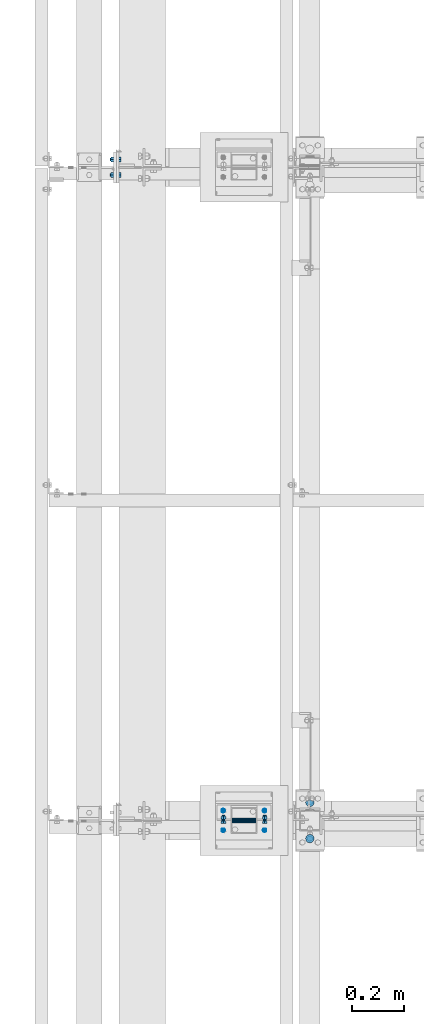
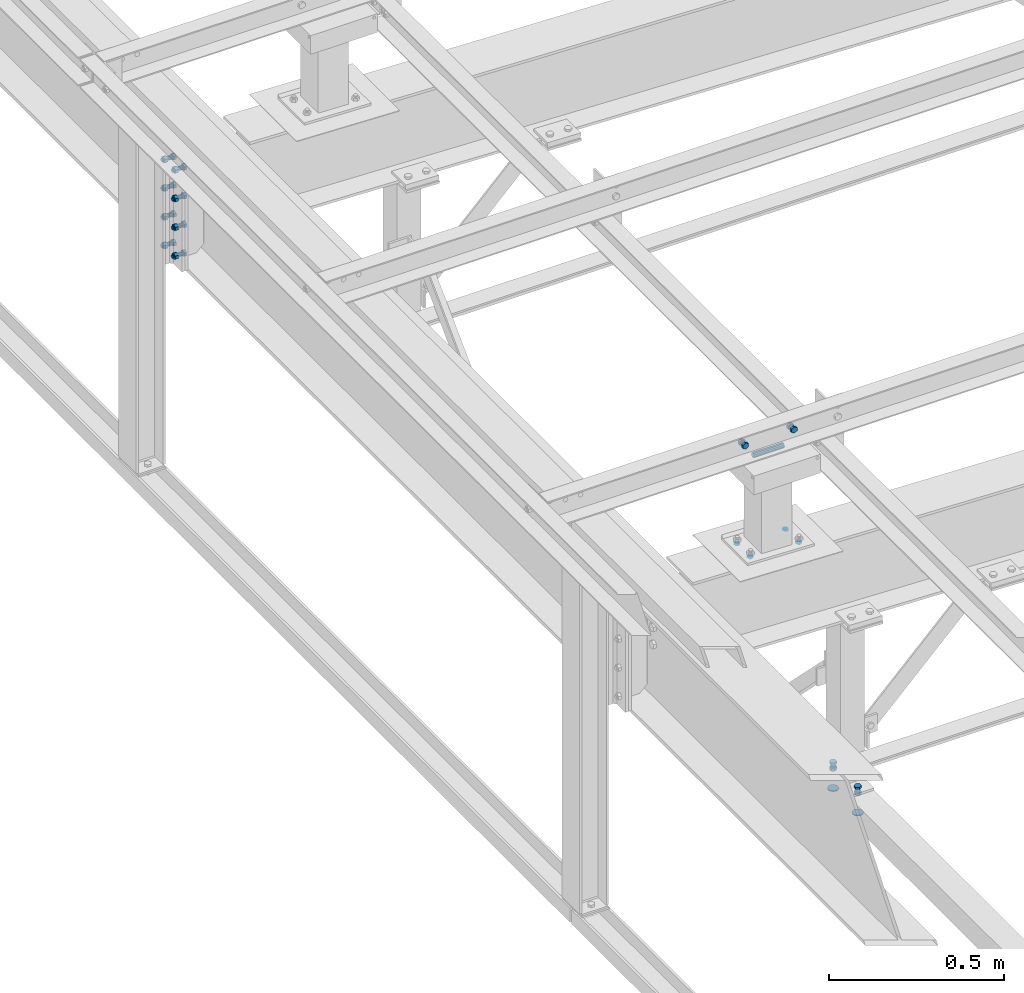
# One storey, part 60 of 3134: 6 mechanical fasteners, 4 elements without a shape of their own.
"""IFC2X3 building model written with IfcOpenShell, lengths in millimetres."""

from ifc_helpers import new_model, si_unit, frame, origin_with_axes, place, context, subcontext, project, spatial, faceted_brep, source, transform, mapped, material, type_object, element, aggregate, save


model = new_model("IFC2X3")

# Units and contexts
model_context = context("Model", 3, precision=1e-05, world=origin_with_axes())
body_context = subcontext(model_context, "Body", "Model", "MODEL_VIEW")
ifc_project = project(units=[si_unit("LENGTHUNIT", "METRE", prefix="MILLI"), si_unit("AREAUNIT", "SQUARE_METRE"), si_unit("VOLUMEUNIT", "CUBIC_METRE"), si_unit("MASSUNIT", "GRAM", prefix="KILO"), si_unit("TIMEUNIT", "SECOND"), si_unit("PLANEANGLEUNIT", "RADIAN"), si_unit("SOLIDANGLEUNIT", "STERADIAN"), si_unit("THERMODYNAMICTEMPERATUREUNIT", "DEGREE_CELSIUS"), si_unit("LUMINOUSINTENSITYUNIT", "LUMEN")], contexts=[model_context])

# Site, building, storey
site_placement = place(None, origin_with_axes())
site = spatial("IfcSite", under=ifc_project, at=site_placement, CompositionType="ELEMENT")
building_placement = place(site_placement, origin_with_axes())
building = spatial("IfcBuilding", under=site, at=building_placement, Name="Undefined", CompositionType="ELEMENT")
storey_placement = place(building_placement, origin_with_axes())
storey = spatial("IfcBuildingStorey", under=building, at=storey_placement, Name="Undefined", CompositionType="ELEMENT", Elevation=0.0)

# Assembly, mechanical fasteners
assembly_1_placement = place(storey_placement, origin_with_axes())
assembly_1 = element("IfcElementAssembly", 1, at=assembly_1_placement, inside=storey, AssemblyPlace="NOTDEFINED", PredefinedType="RIGID_FRAME")
ifc_material = material(Name="8.8")
mechanical_fastener_type = type_object("IfcMechanicalFastenerType", Name="Bolt assembly")
shared_shape_1 = source(origin_with_axes(), body_context, "Body", "Brep", [
    faceted_brep([(16.5, -3.0, 0.0), (14.289419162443, -3.0, 8.25000000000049), (8.24999999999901, -3.0, 14.2894191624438), (-1.70995436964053e-12, -3.0, 16.5), (-8.25000000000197, -3.0, 14.2894191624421), (-14.2894191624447, -3.0, 8.24999999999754), (-16.5, -3.0, -3.41990873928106e-12), (-14.2894191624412, -3.0, -8.25000000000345), (-8.24999999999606, -3.0, -14.2894191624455), (5.11154442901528e-12, -3.0, -16.5), (8.25000000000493, -3.0, -14.2894191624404), (14.2894191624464, -3.0, -8.24999999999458), (14.2894191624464, 0.1, -8.24999999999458), (8.25000000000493, 0.1, -14.2894191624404), (5.11154442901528e-12, 0.1, -16.5), (-8.24999999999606, 0.1, -14.2894191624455), (-14.2894191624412, 0.1, -8.25000000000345), (-16.5, 0.1, -3.41990873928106e-12), (-14.2894191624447, 0.1, 8.24999999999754), (-8.25000000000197, 0.1, 14.2894191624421), (-1.70995436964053e-12, 0.1, 16.5), (8.24999999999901, 0.1, 14.2894191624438), (14.289419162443, 0.1, 8.25000000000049), (16.5, 0.1, 0.0)], [[[0, 1, 2, 3, 4, 5, 6, 7, 8, 9, 10, 11]], [[12, 13, 14, 15, 16, 17, 18, 19, 20, 21, 22, 23]], [[0, 23, 22, 1]], [[1, 22, 21, 2]], [[2, 21, 20, 3]], [[3, 20, 19, 4]], [[4, 19, 18, 5]], [[5, 18, 17, 6]], [[6, 17, 16, 7]], [[7, 16, 15, 8]], [[8, 15, 14, 9]], [[9, 14, 13, 10]], [[10, 13, 12, 11]], [[11, 12, 23, 0]]]),
])
mechanical_fastener_1_placement = place(assembly_1_placement, frame((650.0, 22051.25, 3040.0), z_axis=(1.0, 0.0, 0.0), x_axis=(0.0, -1.0, 0.0)))
mechanical_fastener_1 = element("IfcMechanicalFastener", 2, at=mechanical_fastener_1_placement, type_object=mechanical_fastener_type, material=ifc_material, Name="Bolt assembly", NominalDiameter=30.0, NominalLength=3.0, context=body_context, shape_type="MappedRepresentation", body=[
    mapped(shared_shape_1, transform((0.0, 0.0, 0.0))),
    mapped(shared_shape_1, transform((140.0, 0.0, 0.0))),
])
shared_shape_2 = source(origin_with_axes(), body_context, "Body", "Brep", [
    faceted_brep([(10.9696551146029, -16.0, 0.0), (5.48482755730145, -16.0, 9.5), (-5.48482755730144, -16.0, 9.5), (-10.9696551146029, -16.0, 1.34339530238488e-15), (-5.48482755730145, -16.0, -9.5), (5.48482755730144, -16.0, -9.50000000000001), (5.48482755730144, -8.0, -9.50000000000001), (-5.48482755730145, -8.0, -9.5), (-10.9696551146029, -8.0, 1.34339530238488e-15), (-5.48482755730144, -8.0, 9.5), (5.48482755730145, -8.0, 9.5), (10.9696551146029, -8.0, 0.0), (6.0, -8.0, 0.0), (5.19615242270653, -8.0, 3.00000000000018), (2.99999999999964, -8.0, 5.19615242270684), (-6.21801588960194e-13, -8.0, 6.0), (-3.00000000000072, -8.0, 5.19615242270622), (-5.19615242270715, -8.0, 2.9999999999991), (-6.0, -8.0, -1.24360317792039e-12), (-5.19615242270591, -8.0, -3.00000000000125), (-2.99999999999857, -8.0, -5.19615242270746), (1.85874342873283e-12, -8.0, -6.0), (3.00000000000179, -8.0, -5.1961524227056), (5.19615242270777, -8.0, -2.99999999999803), (5.19615242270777, 17.0, -2.99999999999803), (3.00000000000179, 17.0, -5.1961524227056), (1.85874342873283e-12, 17.0, -6.0), (-2.99999999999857, 17.0, -5.19615242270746), (-5.19615242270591, 17.0, -3.00000000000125), (-6.0, 17.0, -1.24360317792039e-12), (-5.19615242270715, 17.0, 2.9999999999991), (-3.00000000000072, 17.0, 5.19615242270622), (-6.21801588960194e-13, 17.0, 6.0), (2.99999999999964, 17.0, 5.19615242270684), (5.19615242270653, 17.0, 3.00000000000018), (6.0, 17.0, 0.0), (10.9696551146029, 3.00000000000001, 0.0), (5.48482755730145, 3.00000000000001, 9.5), (-5.48482755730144, 3.00000000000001, 9.5), (-10.9696551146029, 3.00000000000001, 1.34339530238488e-15), (-5.48482755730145, 3.00000000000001, -9.5), (5.48482755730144, 3.00000000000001, -9.50000000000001), (5.48482755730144, 13.0, -9.50000000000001), (-5.48482755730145, 13.0, -9.5), (-10.9696551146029, 13.0, 1.34339530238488e-15), (-5.48482755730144, 13.0, 9.5), (5.48482755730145, 13.0, 9.5), (10.9696551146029, 13.0, 0.0)], [[[0, 1, 2, 3, 4, 5]], [[6, 7, 8, 9, 10, 11]], [[0, 11, 10, 1]], [[1, 10, 9, 2]], [[2, 9, 8, 3]], [[3, 8, 7, 4]], [[4, 7, 6, 5]], [[5, 6, 11, 0]], [[12, 13, 14, 15, 16, 17, 18, 19, 20, 21, 22, 23]], [[24, 25, 26, 27, 28, 29, 30, 31, 32, 33, 34, 35]], [[12, 35, 34, 13]], [[13, 34, 33, 14]], [[14, 33, 32, 15]], [[15, 32, 31, 16]], [[16, 31, 30, 17]], [[17, 30, 29, 18]], [[18, 29, 28, 19]], [[19, 28, 27, 20]], [[20, 27, 26, 21]], [[21, 26, 25, 22]], [[22, 25, 24, 23]], [[23, 24, 35, 12]], [[36, 37, 38, 39, 40, 41]], [[42, 43, 44, 45, 46, 47]], [[36, 47, 46, 37]], [[37, 46, 45, 38]], [[38, 45, 44, 39]], [[39, 44, 43, 40]], [[40, 43, 42, 41]], [[41, 42, 47, 36]]]),
    faceted_brep([(7.0, -7.9, 0.0), (6.06217782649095, -7.9, 3.50000000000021), (3.49999999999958, -7.9, 6.06217782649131), (-7.25435187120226e-13, -7.9, 7.0), (-3.50000000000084, -7.9, 6.06217782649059), (-6.06217782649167, -7.9, 3.49999999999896), (-7.0, -7.9, -1.45087037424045e-12), (-6.06217782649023, -7.9, -3.50000000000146), (-3.49999999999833, -7.9, -6.06217782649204), (2.1685340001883e-12, -7.9, -7.0), (3.50000000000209, -7.9, -6.06217782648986), (6.0621778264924, -7.9, -3.4999999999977), (6.0621778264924, 0.0999999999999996, -3.4999999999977), (3.50000000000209, 0.0999999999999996, -6.06217782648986), (2.1685340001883e-12, 0.0999999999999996, -7.0), (-3.49999999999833, 0.0999999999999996, -6.06217782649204), (-6.06217782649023, 0.0999999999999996, -3.50000000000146), (-7.0, 0.0999999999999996, -1.45087037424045e-12), (-6.06217782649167, 0.0999999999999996, 3.49999999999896), (-3.50000000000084, 0.0999999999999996, 6.06217782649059), (-7.25435187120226e-13, 0.0999999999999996, 7.0), (3.49999999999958, 0.0999999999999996, 6.06217782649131), (6.06217782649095, 0.0999999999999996, 3.50000000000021), (7.0, 0.0999999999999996, 0.0), (7.0, -0.1, 0.0), (6.06217782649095, -0.1, 3.50000000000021), (3.49999999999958, -0.1, 6.06217782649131), (-7.25435187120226e-13, -0.1, 7.0), (-3.50000000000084, -0.1, 6.06217782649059), (-6.06217782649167, -0.1, 3.49999999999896), (-7.0, -0.1, -1.45087037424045e-12), (-6.06217782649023, -0.1, -3.50000000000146), (-3.49999999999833, -0.1, -6.06217782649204), (2.1685340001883e-12, -0.1, -7.0), (3.50000000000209, -0.1, -6.06217782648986), (6.0621778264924, -0.1, -3.4999999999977), (6.0621778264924, 3.0, -3.4999999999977), (3.50000000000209, 3.0, -6.06217782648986), (2.1685340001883e-12, 3.0, -7.0), (-3.49999999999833, 3.0, -6.06217782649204), (-6.06217782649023, 3.0, -3.50000000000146), (-7.0, 3.0, -1.45087037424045e-12), (-6.06217782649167, 3.0, 3.49999999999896), (-3.50000000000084, 3.0, 6.06217782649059), (-7.25435187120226e-13, 3.0, 7.0), (3.49999999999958, 3.0, 6.06217782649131), (6.06217782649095, 3.0, 3.50000000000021), (7.0, 3.0, 0.0)], [[[0, 1, 2, 3, 4, 5, 6, 7, 8, 9, 10, 11]], [[12, 13, 14, 15, 16, 17, 18, 19, 20, 21, 22, 23]], [[0, 23, 22, 1]], [[1, 22, 21, 2]], [[2, 21, 20, 3]], [[3, 20, 19, 4]], [[4, 19, 18, 5]], [[5, 18, 17, 6]], [[6, 17, 16, 7]], [[7, 16, 15, 8]], [[8, 15, 14, 9]], [[9, 14, 13, 10]], [[10, 13, 12, 11]], [[11, 12, 23, 0]], [[24, 25, 26, 27, 28, 29, 30, 31, 32, 33, 34, 35]], [[36, 37, 38, 39, 40, 41, 42, 43, 44, 45, 46, 47]], [[24, 47, 46, 25]], [[25, 46, 45, 26]], [[26, 45, 44, 27]], [[27, 44, 43, 28]], [[28, 43, 42, 29]], [[29, 42, 41, 30]], [[30, 41, 40, 31]], [[31, 40, 39, 32]], [[32, 39, 38, 33]], [[33, 38, 37, 34]], [[34, 37, 36, 35]], [[35, 36, 47, 24]]]),
])
mechanical_fastener_2_placement = place(assembly_1_placement, frame((650.0, 22051.25, 3120.0), z_axis=(1.0, 0.0, 0.0), x_axis=(0.0, -1.0, 0.0)))
mechanical_fastener_2 = element("IfcMechanicalFastener", 3, at=mechanical_fastener_2_placement, type_object=mechanical_fastener_type, material=ifc_material, Name="Bolt assembly", NominalDiameter=12.0, NominalLength=25.0, context=body_context, shape_type="MappedRepresentation", body=[
    mapped(shared_shape_2, transform((0.0, 0.0, 0.0))),
    mapped(shared_shape_2, transform((140.0, 0.0, 0.0))),
])
aggregate(assembly_1, [mechanical_fastener_2, mechanical_fastener_1])

# Assembly, mechanical fastener
assembly_2_placement = place(storey_placement, origin_with_axes())
assembly_2 = element("IfcElementAssembly", 4, at=assembly_2_placement, inside=storey, Name="IPE400", AssemblyPlace="NOTDEFINED", PredefinedType="RIGID_FRAME")
shared_shape_3 = source(origin_with_axes(), body_context, "Body", "Brep", [
    faceted_brep([(10.9696551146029, -18.0, 0.0), (5.48482755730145, -18.0, 9.5), (-5.48482755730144, -18.0, 9.5), (-10.9696551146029, -18.0, 1.34339530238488e-15), (-5.48482755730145, -18.0, -9.5), (5.48482755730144, -18.0, -9.50000000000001), (5.48482755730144, -10.0, -9.50000000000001), (-5.48482755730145, -10.0, -9.5), (-10.9696551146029, -10.0, 1.34339530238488e-15), (-5.48482755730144, -10.0, 9.5), (5.48482755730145, -10.0, 9.5), (10.9696551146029, -10.0, 0.0), (6.0, -10.0, 0.0), (5.19615242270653, -10.0, 3.00000000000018), (2.99999999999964, -10.0, 5.19615242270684), (-6.21801588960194e-13, -10.0, 6.0), (-3.00000000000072, -10.0, 5.19615242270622), (-5.19615242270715, -10.0, 2.9999999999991), (-6.0, -10.0, -1.24360317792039e-12), (-5.19615242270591, -10.0, -3.00000000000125), (-2.99999999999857, -10.0, -5.19615242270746), (1.85874342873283e-12, -10.0, -6.0), (3.00000000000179, -10.0, -5.1961524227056), (5.19615242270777, -10.0, -2.99999999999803), (5.19615242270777, 24.9999999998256, -2.99999999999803), (3.00000000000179, 24.9999999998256, -5.1961524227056), (1.85874342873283e-12, 24.9999999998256, -6.0), (-2.99999999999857, 24.9999999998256, -5.19615242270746), (-5.19615242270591, 24.9999999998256, -3.00000000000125), (-6.0, 24.9999999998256, -1.24360317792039e-12), (-5.19615242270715, 24.9999999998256, 2.9999999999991), (-3.00000000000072, 24.9999999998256, 5.19615242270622), (-6.21801588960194e-13, 24.9999999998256, 6.0), (2.99999999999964, 24.9999999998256, 5.19615242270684), (5.19615242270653, 24.9999999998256, 3.00000000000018), (6.0, 24.9999999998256, 0.0), (10.9696551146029, 10.0, 0.0), (5.48482755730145, 10.0, 9.5), (-5.48482755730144, 10.0, 9.5), (-10.9696551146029, 10.0, 1.34339530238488e-15), (-5.48482755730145, 10.0, -9.5), (5.48482755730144, 10.0, -9.50000000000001), (5.48482755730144, 20.0, -9.50000000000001), (-5.48482755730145, 20.0, -9.5), (-10.9696551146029, 20.0, 1.34339530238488e-15), (-5.48482755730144, 20.0, 9.5), (5.48482755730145, 20.0, 9.5), (10.9696551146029, 20.0, 0.0)], [[[0, 1, 2, 3, 4, 5]], [[6, 7, 8, 9, 10, 11]], [[0, 11, 10, 1]], [[1, 10, 9, 2]], [[2, 9, 8, 3]], [[3, 8, 7, 4]], [[4, 7, 6, 5]], [[5, 6, 11, 0]], [[12, 13, 14, 15, 16, 17, 18, 19, 20, 21, 22, 23]], [[24, 25, 26, 27, 28, 29, 30, 31, 32, 33, 34, 35]], [[12, 35, 34, 13]], [[13, 34, 33, 14]], [[14, 33, 32, 15]], [[15, 32, 31, 16]], [[16, 31, 30, 17]], [[17, 30, 29, 18]], [[18, 29, 28, 19]], [[19, 28, 27, 20]], [[20, 27, 26, 21]], [[21, 26, 25, 22]], [[22, 25, 24, 23]], [[23, 24, 35, 12]], [[36, 37, 38, 39, 40, 41]], [[42, 43, 44, 45, 46, 47]], [[36, 47, 46, 37]], [[37, 46, 45, 38]], [[38, 45, 44, 39]], [[39, 44, 43, 40]], [[40, 43, 42, 41]], [[41, 42, 47, 36]]]),
    faceted_brep([(7.0, -0.1, 0.0), (6.06217782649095, -0.1, 3.50000000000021), (3.49999999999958, -0.1, 6.06217782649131), (-7.25435187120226e-13, -0.1, 7.0), (-3.50000000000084, -0.1, 6.06217782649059), (-6.06217782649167, -0.1, 3.49999999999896), (-7.0, -0.1, -1.45087037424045e-12), (-6.06217782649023, -0.1, -3.50000000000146), (-3.49999999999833, -0.1, -6.06217782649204), (2.1685340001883e-12, -0.1, -7.0), (3.50000000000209, -0.1, -6.06217782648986), (6.0621778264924, -0.1, -3.4999999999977), (6.0621778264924, 10.0, -3.4999999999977), (3.50000000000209, 10.0, -6.06217782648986), (2.1685340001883e-12, 10.0, -7.0), (-3.49999999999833, 10.0, -6.06217782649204), (-6.06217782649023, 10.0, -3.50000000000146), (-7.0, 10.0, -1.45087037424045e-12), (-6.06217782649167, 10.0, 3.49999999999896), (-3.50000000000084, 10.0, 6.06217782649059), (-7.25435187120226e-13, 10.0, 7.0), (3.49999999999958, 10.0, 6.06217782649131), (6.06217782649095, 10.0, 3.50000000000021), (7.0, 10.0, 0.0), (7.0, -9.89999913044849, 0.0), (6.06217782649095, -9.89999913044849, 3.50000000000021), (3.49999999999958, -9.89999913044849, 6.06217782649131), (-7.25435187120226e-13, -9.89999913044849, 7.0), (-3.50000000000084, -9.89999913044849, 6.06217782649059), (-6.06217782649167, -9.89999913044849, 3.49999999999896), (-7.0, -9.89999913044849, -1.45087037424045e-12), (-6.06217782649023, -9.89999913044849, -3.50000000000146), (-3.49999999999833, -9.89999913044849, -6.06217782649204), (2.1685340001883e-12, -9.89999913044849, -7.0), (3.50000000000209, -9.89999913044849, -6.06217782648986), (6.0621778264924, -9.89999913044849, -3.4999999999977), (6.0621778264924, 0.0999999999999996, -3.4999999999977), (3.50000000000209, 0.0999999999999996, -6.06217782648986), (2.1685340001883e-12, 0.0999999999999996, -7.0), (-3.49999999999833, 0.0999999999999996, -6.06217782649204), (-6.06217782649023, 0.0999999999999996, -3.50000000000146), (-7.0, 0.0999999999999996, -1.45087037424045e-12), (-6.06217782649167, 0.0999999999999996, 3.49999999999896), (-3.50000000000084, 0.0999999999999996, 6.06217782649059), (-7.25435187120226e-13, 0.0999999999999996, 7.0), (3.49999999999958, 0.0999999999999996, 6.06217782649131), (6.06217782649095, 0.0999999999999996, 3.50000000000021), (7.0, 0.0999999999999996, 0.0)], [[[0, 1, 2, 3, 4, 5, 6, 7, 8, 9, 10, 11]], [[12, 13, 14, 15, 16, 17, 18, 19, 20, 21, 22, 23]], [[0, 23, 22, 1]], [[1, 22, 21, 2]], [[2, 21, 20, 3]], [[3, 20, 19, 4]], [[4, 19, 18, 5]], [[5, 18, 17, 6]], [[6, 17, 16, 7]], [[7, 16, 15, 8]], [[8, 15, 14, 9]], [[9, 14, 13, 10]], [[10, 13, 12, 11]], [[11, 12, 23, 0]], [[24, 25, 26, 27, 28, 29, 30, 31, 32, 33, 34, 35]], [[36, 37, 38, 39, 40, 41, 42, 43, 44, 45, 46, 47]], [[24, 47, 46, 25]], [[25, 46, 45, 26]], [[26, 45, 44, 27]], [[27, 44, 43, 28]], [[28, 43, 42, 29]], [[29, 42, 41, 30]], [[30, 41, 40, 31]], [[31, 40, 39, 32]], [[32, 39, 38, 33]], [[33, 38, 37, 34]], [[34, 37, 36, 35]], [[35, 36, 47, 24]]]),
])
mechanical_fastener_3_placement = place(assembly_2_placement, frame((-100.0, 24512.5, 3990.0), z_axis=(0.0, 1.0, 0.0), x_axis=(0.0, 0.0, -1.0)))
mechanical_fastener_3 = element("IfcMechanicalFastener", 5, at=mechanical_fastener_3_placement, type_object=mechanical_fastener_type, material=ifc_material, Name="Bolt assembly", NominalDiameter=12.0, NominalLength=35.0, context=body_context, shape_type="MappedRepresentation", body=[
    mapped(shared_shape_3, transform((0.0, 4.54747350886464e-13, -30.0000000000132))),
    mapped(shared_shape_3, transform((100.0, 0.0, -30.0))),
    mapped(shared_shape_3, transform((200.0, 0.0, -30.0))),
    mapped(shared_shape_3, transform((300.0, 0.0, -30.0))),
    mapped(shared_shape_3, transform((0.0, 4.54747350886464e-13, 30.0000000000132))),
    mapped(shared_shape_3, transform((100.0, 0.0, 30.0))),
    mapped(shared_shape_3, transform((200.0, 0.0, 30.0))),
    mapped(shared_shape_3, transform((300.0, 0.0, 30.0))),
])
aggregate(assembly_2, [mechanical_fastener_3])

assembly_3_placement = place(storey_placement, origin_with_axes())
assembly_3 = element("IfcElementAssembly", 6, at=assembly_3_placement, inside=storey, AssemblyPlace="NOTDEFINED", PredefinedType="RIGID_FRAME")
shared_shape_4 = source(origin_with_axes(), body_context, "Body", "Brep", [
    faceted_brep([(7.0, 13.0000253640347, 0.0), (6.06217782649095, 13.0000253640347, 3.50000000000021), (3.49999999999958, 13.0000253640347, 6.06217782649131), (-7.25435187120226e-13, 13.0000253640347, 7.0), (-3.50000000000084, 13.0000253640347, 6.06217782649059), (-6.06217782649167, 13.0000253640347, 3.49999999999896), (-7.0, 13.0000253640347, -1.45087037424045e-12), (-6.06217782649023, 13.0000253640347, -3.50000000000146), (-3.49999999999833, 13.0000253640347, -6.06217782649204), (2.1685340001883e-12, 13.0000253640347, -7.0), (3.50000000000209, 13.0000253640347, -6.06217782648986), (6.0621778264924, 13.0000253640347, -3.4999999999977), (6.0621778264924, 15.0999999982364, -3.4999999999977), (3.50000000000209, 15.0999999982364, -6.06217782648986), (2.1685340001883e-12, 15.0999999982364, -7.0), (-3.49999999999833, 15.0999999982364, -6.06217782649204), (-6.06217782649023, 15.0999999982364, -3.50000000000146), (-7.0, 15.0999999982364, -1.45087037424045e-12), (-6.06217782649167, 15.0999999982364, 3.49999999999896), (-3.50000000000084, 15.0999999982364, 6.06217782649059), (-7.25435187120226e-13, 15.0999999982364, 7.0), (3.49999999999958, 15.0999999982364, 6.06217782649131), (6.06217782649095, 15.0999999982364, 3.50000000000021), (7.0, 15.0999999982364, 0.0)], [[[0, 1, 2, 3, 4, 5, 6, 7, 8, 9, 10, 11]], [[12, 13, 14, 15, 16, 17, 18, 19, 20, 21, 22, 23]], [[0, 23, 22, 1]], [[1, 22, 21, 2]], [[2, 21, 20, 3]], [[3, 20, 19, 4]], [[4, 19, 18, 5]], [[5, 18, 17, 6]], [[6, 17, 16, 7]], [[7, 16, 15, 8]], [[8, 15, 14, 9]], [[9, 14, 13, 10]], [[10, 13, 12, 11]], [[11, 12, 23, 0]]]),
])
mechanical_fastener_4_placement = place(assembly_3_placement, frame((394.193176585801, 22019.2499999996, 4013.19000668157), z_axis=(-0.999387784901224, 0.0, 0.0349865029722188), x_axis=(0.0, -1.0, 0.0)))
mechanical_fastener_4 = element("IfcMechanicalFastener", 7, at=mechanical_fastener_4_placement, type_object=mechanical_fastener_type, material=ifc_material, Name="Bolt assembly", NominalDiameter=12.0, NominalLength=2.0, context=body_context, shape_type="MappedRepresentation", body=[
    mapped(shared_shape_4, transform((0.0, -5.32963895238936e-10, -79.9999999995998))),
    mapped(shared_shape_4, transform((76.0, -5.32963895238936e-10, -79.9999999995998))),
    mapped(shared_shape_4, transform((0.0, 5.3114490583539e-10, 79.9999999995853))),
    mapped(shared_shape_4, transform((76.0, 5.3114490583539e-10, 79.9999999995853))),
])
aggregate(assembly_3, [mechanical_fastener_4])

# Assembly, mechanical fasteners
assembly_4_placement = place(storey_placement, origin_with_axes())
assembly_4 = element("IfcElementAssembly", 8, at=assembly_4_placement, inside=storey, AssemblyPlace="NOTDEFINED", PredefinedType="RIGID_FRAME")
shared_shape_5 = source(origin_with_axes(), body_context, "Body", "Brep", [
    faceted_brep([(9.0, -50.0, 0.0), (7.79422863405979, -50.0, 4.50000000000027), (4.49999999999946, -50.0, 7.79422863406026), (-9.3270238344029e-13, -50.0, 9.0), (-4.50000000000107, -50.0, 7.79422863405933), (-7.79422863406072, -50.0, 4.49999999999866), (-9.0, -50.0, -1.86540476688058e-12), (-7.79422863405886, -50.0, -4.50000000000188), (-4.49999999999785, -50.0, -7.79422863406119), (2.78811514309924e-12, -50.0, -9.0), (4.50000000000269, -50.0, -7.7942286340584), (7.79422863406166, -50.0, -4.49999999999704), (7.79422863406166, 50.1, -4.49999999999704), (4.50000000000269, 50.1, -7.7942286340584), (2.78811514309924e-12, 50.1, -9.0), (-4.49999999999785, 50.1, -7.79422863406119), (-7.79422863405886, 50.1, -4.50000000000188), (-9.0, 50.1, -1.86540476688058e-12), (-7.79422863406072, 50.1, 4.49999999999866), (-4.50000000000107, 50.1, 7.79422863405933), (-9.3270238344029e-13, 50.1, 9.0), (4.49999999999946, 50.1, 7.79422863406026), (7.79422863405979, 50.1, 4.50000000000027), (9.0, 50.1, 0.0)], [[[0, 1, 2, 3, 4, 5, 6, 7, 8, 9, 10, 11]], [[12, 13, 14, 15, 16, 17, 18, 19, 20, 21, 22, 23]], [[0, 23, 22, 1]], [[1, 22, 21, 2]], [[2, 21, 20, 3]], [[3, 20, 19, 4]], [[4, 19, 18, 5]], [[5, 18, 17, 6]], [[6, 17, 16, 7]], [[7, 16, 15, 8]], [[8, 15, 14, 9]], [[9, 14, 13, 10]], [[10, 13, 12, 11]], [[11, 12, 23, 0]]]),
])
mechanical_fastener_5_placement = place(assembly_4_placement, frame((395.0, 21981.25, 4351.0), z_axis=(0.0, 1.0, 0.0), x_axis=(0.0, 0.0, 1.0)))
mechanical_fastener_5 = element("IfcMechanicalFastener", 9, at=mechanical_fastener_5_placement, type_object=mechanical_fastener_type, material=ifc_material, Name="Bolt assembly", NominalDiameter=16.0, NominalLength=100.0, context=body_context, shape_type="MappedRepresentation", body=[
    mapped(shared_shape_5, transform((0.0, 0.0, 0.0))),
])
shared_shape_6 = source(origin_with_axes(), body_context, "Body", "Brep", [
    faceted_brep([(10.9696551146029, -12.0, 0.0), (5.48482755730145, -12.0, 9.5), (-5.48482755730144, -12.0, 9.5), (-10.9696551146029, -12.0, 1.34339530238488e-15), (-5.48482755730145, -12.0, -9.5), (5.48482755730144, -12.0, -9.50000000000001), (5.48482755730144, -4.0, -9.50000000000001), (-5.48482755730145, -4.0, -9.5), (-10.9696551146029, -4.0, 1.34339530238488e-15), (-5.48482755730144, -4.0, 9.5), (5.48482755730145, -4.0, 9.5), (10.9696551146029, -4.0, 0.0), (6.0, -4.0, 0.0), (5.19615242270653, -4.0, 3.00000000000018), (2.99999999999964, -4.0, 5.19615242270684), (-6.21801588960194e-13, -4.0, 6.0), (-3.00000000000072, -4.0, 5.19615242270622), (-5.19615242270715, -4.0, 2.9999999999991), (-6.0, -4.0, -1.24360317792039e-12), (-5.19615242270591, -4.0, -3.00000000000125), (-2.99999999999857, -4.0, -5.19615242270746), (1.85874342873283e-12, -4.0, -6.0), (3.00000000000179, -4.0, -5.1961524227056), (5.19615242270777, -4.0, -2.99999999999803), (5.19615242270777, 21.0, -2.99999999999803), (3.00000000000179, 21.0, -5.1961524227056), (1.85874342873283e-12, 21.0, -6.0), (-2.99999999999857, 21.0, -5.19615242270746), (-5.19615242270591, 21.0, -3.00000000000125), (-6.0, 21.0, -1.24360317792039e-12), (-5.19615242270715, 21.0, 2.9999999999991), (-3.00000000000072, 21.0, 5.19615242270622), (-6.21801588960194e-13, 21.0, 6.0), (2.99999999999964, 21.0, 5.19615242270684), (5.19615242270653, 21.0, 3.00000000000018), (6.0, 21.0, 0.0), (10.9696551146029, 6.00000000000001, 0.0), (5.48482755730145, 6.00000000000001, 9.5), (-5.48482755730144, 6.00000000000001, 9.5), (-10.9696551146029, 6.00000000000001, 1.34339530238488e-15), (-5.48482755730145, 6.00000000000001, -9.5), (5.48482755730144, 6.00000000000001, -9.50000000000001), (5.48482755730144, 16.0, -9.50000000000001), (-5.48482755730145, 16.0, -9.5), (-10.9696551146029, 16.0, 1.34339530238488e-15), (-5.48482755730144, 16.0, 9.5), (5.48482755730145, 16.0, 9.5), (10.9696551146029, 16.0, 0.0)], [[[0, 1, 2, 3, 4, 5]], [[6, 7, 8, 9, 10, 11]], [[0, 11, 10, 1]], [[1, 10, 9, 2]], [[2, 9, 8, 3]], [[3, 8, 7, 4]], [[4, 7, 6, 5]], [[5, 6, 11, 0]], [[12, 13, 14, 15, 16, 17, 18, 19, 20, 21, 22, 23]], [[24, 25, 26, 27, 28, 29, 30, 31, 32, 33, 34, 35]], [[12, 35, 34, 13]], [[13, 34, 33, 14]], [[14, 33, 32, 15]], [[15, 32, 31, 16]], [[16, 31, 30, 17]], [[17, 30, 29, 18]], [[18, 29, 28, 19]], [[19, 28, 27, 20]], [[20, 27, 26, 21]], [[21, 26, 25, 22]], [[22, 25, 24, 23]], [[23, 24, 35, 12]], [[36, 37, 38, 39, 40, 41]], [[42, 43, 44, 45, 46, 47]], [[36, 47, 46, 37]], [[37, 46, 45, 38]], [[38, 45, 44, 39]], [[39, 44, 43, 40]], [[40, 43, 42, 41]], [[41, 42, 47, 36]]]),
    faceted_brep([(7.0, -3.9, 0.0), (6.06217782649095, -3.9, 3.50000000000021), (3.49999999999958, -3.9, 6.06217782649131), (-7.25435187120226e-13, -3.9, 7.0), (-3.50000000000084, -3.9, 6.06217782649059), (-6.06217782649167, -3.9, 3.49999999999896), (-7.0, -3.9, -1.45087037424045e-12), (-6.06217782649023, -3.9, -3.50000000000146), (-3.49999999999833, -3.9, -6.06217782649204), (2.1685340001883e-12, -3.9, -7.0), (3.50000000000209, -3.9, -6.06217782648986), (6.0621778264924, -3.9, -3.4999999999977), (6.0621778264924, 0.0999999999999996, -3.4999999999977), (3.50000000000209, 0.0999999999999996, -6.06217782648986), (2.1685340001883e-12, 0.0999999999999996, -7.0), (-3.49999999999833, 0.0999999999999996, -6.06217782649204), (-6.06217782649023, 0.0999999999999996, -3.50000000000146), (-7.0, 0.0999999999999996, -1.45087037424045e-12), (-6.06217782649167, 0.0999999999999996, 3.49999999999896), (-3.50000000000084, 0.0999999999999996, 6.06217782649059), (-7.25435187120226e-13, 0.0999999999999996, 7.0), (3.49999999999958, 0.0999999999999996, 6.06217782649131), (6.06217782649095, 0.0999999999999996, 3.50000000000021), (7.0, 0.0999999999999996, 0.0), (7.0, -0.1, 0.0), (6.06217782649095, -0.1, 3.50000000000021), (3.49999999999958, -0.1, 6.06217782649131), (-7.25435187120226e-13, -0.1, 7.0), (-3.50000000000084, -0.1, 6.06217782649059), (-6.06217782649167, -0.1, 3.49999999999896), (-7.0, -0.1, -1.45087037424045e-12), (-6.06217782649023, -0.1, -3.50000000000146), (-3.49999999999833, -0.1, -6.06217782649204), (2.1685340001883e-12, -0.1, -7.0), (3.50000000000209, -0.1, -6.06217782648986), (6.0621778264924, -0.1, -3.4999999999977), (6.0621778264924, 6.00000000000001, -3.4999999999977), (3.50000000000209, 6.00000000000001, -6.06217782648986), (2.1685340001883e-12, 6.00000000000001, -7.0), (-3.49999999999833, 6.00000000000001, -6.06217782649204), (-6.06217782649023, 6.00000000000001, -3.50000000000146), (-7.0, 6.00000000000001, -1.45087037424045e-12), (-6.06217782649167, 6.00000000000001, 3.49999999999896), (-3.50000000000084, 6.00000000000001, 6.06217782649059), (-7.25435187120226e-13, 6.00000000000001, 7.0), (3.49999999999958, 6.00000000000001, 6.06217782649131), (6.06217782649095, 6.00000000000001, 3.50000000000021), (7.0, 6.00000000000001, 0.0)], [[[0, 1, 2, 3, 4, 5, 6, 7, 8, 9, 10, 11]], [[12, 13, 14, 15, 16, 17, 18, 19, 20, 21, 22, 23]], [[0, 23, 22, 1]], [[1, 22, 21, 2]], [[2, 21, 20, 3]], [[3, 20, 19, 4]], [[4, 19, 18, 5]], [[5, 18, 17, 6]], [[6, 17, 16, 7]], [[7, 16, 15, 8]], [[8, 15, 14, 9]], [[9, 14, 13, 10]], [[10, 13, 12, 11]], [[11, 12, 23, 0]], [[24, 25, 26, 27, 28, 29, 30, 31, 32, 33, 34, 35]], [[36, 37, 38, 39, 40, 41, 42, 43, 44, 45, 46, 47]], [[24, 47, 46, 25]], [[25, 46, 45, 26]], [[26, 45, 44, 27]], [[27, 44, 43, 28]], [[28, 43, 42, 29]], [[29, 42, 41, 30]], [[30, 41, 40, 31]], [[31, 40, 39, 32]], [[32, 39, 38, 33]], [[33, 38, 37, 34]], [[34, 37, 36, 35]], [[35, 36, 47, 24]]]),
])
mechanical_fastener_6_placement = place(assembly_4_placement, frame((394.999950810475, 21981.249683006, 4400.0), z_axis=(1.0, 0.0, 0.0), x_axis=(0.0, 0.0, -1.0)))
mechanical_fastener_6 = element("IfcMechanicalFastener", 10, at=mechanical_fastener_6_placement, type_object=mechanical_fastener_type, material=ifc_material, Name="Bolt assembly", NominalDiameter=12.0, NominalLength=25.0, context=body_context, shape_type="MappedRepresentation", body=[
    mapped(shared_shape_6, transform((0.0, -5.32963895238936e-10, -79.9999999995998))),
    mapped(shared_shape_6, transform((0.0, 5.3114490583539e-10, 79.9999999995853))),
])
aggregate(assembly_4, [mechanical_fastener_5, mechanical_fastener_6])

save(model, "model.ifc")
